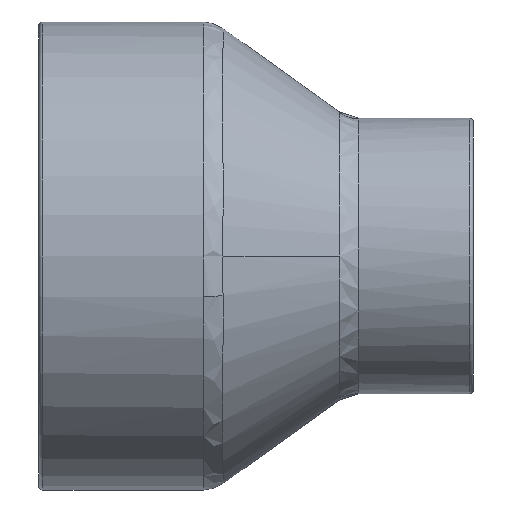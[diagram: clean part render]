
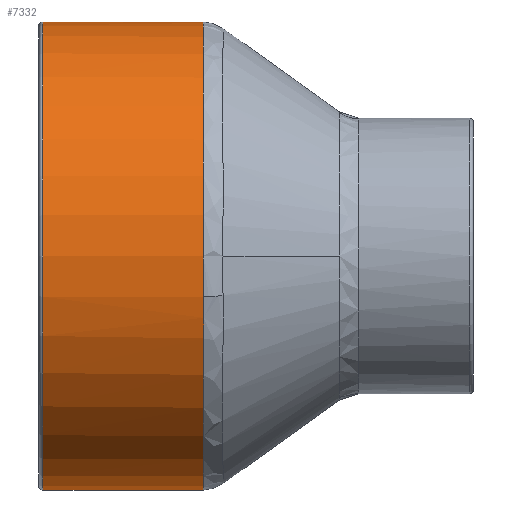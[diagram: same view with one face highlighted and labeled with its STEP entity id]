
A CAD part, front view. The second image highlights one B-rep face of the part: STEP entity #7332.
In plain terms, the highlighted cylindrical face has radius 28 mm (diameter 56 mm), a partial arc.
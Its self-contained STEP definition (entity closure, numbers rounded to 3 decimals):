
#400 = CARTESIAN_POINT ( 'NONE',  ( 19.712, 0., -28. ) ) ;
#658 = CARTESIAN_POINT ( 'NONE',  ( 0.5, 0., 28. ) ) ;
#741 = CARTESIAN_POINT ( 'NONE',  ( 19.719, -8.022, 26.845 ) ) ;
#837 = DIRECTION ( 'NONE',  ( -1., 0., 0. ) ) ;
#840 = CARTESIAN_POINT ( 'NONE',  ( 19.717, -5.072, 27.555 ) ) ;
#959 = DIRECTION ( 'NONE',  ( 0., 0., 1. ) ) ;
#1072 = EDGE_CURVE ( 'NONE', #20285, #4576, #5687, .T. ) ;
#1535 = ORIENTED_EDGE ( 'NONE', *, *, #8756, .T. ) ;
#2003 = CARTESIAN_POINT ( 'NONE',  ( 19.72, -26.5, 9.265 ) ) ;
#2144 = VERTEX_POINT ( 'NONE', #6845 ) ;
#2175 = CARTESIAN_POINT ( 'NONE',  ( 21., 0., -28. ) ) ;
#2610 = CARTESIAN_POINT ( 'NONE',  ( 19.72, -26.869, -8.043 ) ) ;
#2713 = CARTESIAN_POINT ( 'NONE',  ( 19.705, -20.935, -18.611 ) ) ;
#3022 = ORIENTED_EDGE ( 'NONE', *, *, #1072, .T. ) ;
#3386 = CARTESIAN_POINT ( 'NONE',  ( 19.713, -27.925, 2.286 ) ) ;
#3492 = CARTESIAN_POINT ( 'NONE',  ( 19.71, -23.537, 15.174 ) ) ;
#3693 = CARTESIAN_POINT ( 'NONE',  ( 19.704, -20.778, 18.796 ) ) ;
#4022 = DIRECTION ( 'NONE',  ( -1., 0., 0. ) ) ;
#4199 = CARTESIAN_POINT ( 'NONE',  ( 19.704, -20.387, -19.21 ) ) ;
#4307 = CARTESIAN_POINT ( 'NONE',  ( 19.706, -17.423, 21.925 ) ) ;
#4512 = CARTESIAN_POINT ( 'NONE',  ( 19.705, -18.315, -21.184 ) ) ;
#4576 = VERTEX_POINT ( 'NONE', #658 ) ;
#4742 = CARTESIAN_POINT ( 'NONE',  ( 19.712, 0., 28. ) ) ;
#5073 = CARTESIAN_POINT ( 'NONE',  ( 19.718, -27.507, 5.331 ) ) ;
#5274 = CARTESIAN_POINT ( 'NONE',  ( 19.715, -27.823, 3.304 ) ) ;
#5443 = DIRECTION ( 'NONE',  ( -1., 0., 0. ) ) ;
#5687 = LINE ( 'NONE', #9120, #16042 ) ;
#5691 = CARTESIAN_POINT ( 'NONE',  ( 19.704, -18.977, 20.595 ) ) ;
#5747 = LINE ( 'NONE', #2175, #6002 ) ;
#5775 = CARTESIAN_POINT ( 'NONE',  ( 19.709, -15.415, -23.431 ) ) ;
#5786 = CARTESIAN_POINT ( 'NONE',  ( 19.716, -4.072, 27.721 ) ) ;
#6002 = VECTOR ( 'NONE', #5443, 1000. ) ;
#6182 = CARTESIAN_POINT ( 'NONE',  ( 19.704, -19.228, -20.358 ) ) ;
#6632 = B_SPLINE_CURVE_WITH_KNOTS ( 'NONE', 3,
 ( #17765, #16487, #11358, #9775, #16177, #3386, #5274, #5073, #11568, #2003, #6641, #17866, #8407, #18070, #3492, #9876, #11672, #3693, #10081, #5691, #10602, #12095, #4307, #19841, #8717, #8820, #7251, #11997, #17106, #741, #15227, #840, #5786, #13861, #7349, #8611 ),
 .UNSPECIFIED., .F., .F.,
 ( 4, 2, 2, 2, 2, 2, 2, 2, 2, 2, 2, 2, 2, 2, 2, 2, 2, 4 ),
 ( 0.172, 0.175, 0.178, 0.181, 0.184, 0.19, 0.192, 0.194, 0.197, 0.2, 0.201, 0.203, 0.209, 0.21, 0.212, 0.215, 0.218, 0.221 ),
 .UNSPECIFIED. ) ;
#6641 = CARTESIAN_POINT ( 'NONE',  ( 19.717, -25.765, 11.152 ) ) ;
#6845 = CARTESIAN_POINT ( 'NONE',  ( 0.5, 0., -28. ) ) ;
#7251 = CARTESIAN_POINT ( 'NONE',  ( 19.717, -10.895, 25.799 ) ) ;
#7332 = ADVANCED_FACE ( 'NONE', ( #16708 ), #13878, .T. ) ;
#7338 = CARTESIAN_POINT ( 'NONE',  ( 19.715, -12.588, -25.024 ) ) ;
#7349 = CARTESIAN_POINT ( 'NONE',  ( 19.712, -1.018, 28. ) ) ;
#7540 = CARTESIAN_POINT ( 'NONE',  ( 19.707, -22.498, -16.747 ) ) ;
#7638 = CARTESIAN_POINT ( 'NONE',  ( 19.719, -6.473, -27.29 ) ) ;
#7956 = CARTESIAN_POINT ( 'NONE',  ( 0.5, 0., 0. ) ) ;
#8407 = CARTESIAN_POINT ( 'NONE',  ( 19.712, -24.33, 13.867 ) ) ;
#8611 = CARTESIAN_POINT ( 'NONE',  ( 19.712, 0., 28. ) ) ;
#8717 = CARTESIAN_POINT ( 'NONE',  ( 19.713, -13.677, 24.517 ) ) ;
#8756 = EDGE_CURVE ( 'NONE', #4576, #2144, #16727, .T. ) ;
#8820 = CARTESIAN_POINT ( 'NONE',  ( 19.717, -11.366, 25.594 ) ) ;
#8900 = VERTEX_POINT ( 'NONE', #13448 ) ;
#9015 = CARTESIAN_POINT ( 'NONE',  ( 19.712, 0., -28. ) ) ;
#9111 = CARTESIAN_POINT ( 'NONE',  ( 19.712, -0.817, -28. ) ) ;
#9120 = CARTESIAN_POINT ( 'NONE',  ( 21., 0., 28. ) ) ;
#9213 = CARTESIAN_POINT ( 'NONE',  ( 19.719, -27.291, -6.473 ) ) ;
#9775 = CARTESIAN_POINT ( 'NONE',  ( 19.712, -28.008, -0.786 ) ) ;
#9876 = CARTESIAN_POINT ( 'NONE',  ( 19.707, -22.689, 16.438 ) ) ;
#10081 = CARTESIAN_POINT ( 'NONE',  ( 19.704, -20.084, 19.536 ) ) ;
#10602 = CARTESIAN_POINT ( 'NONE',  ( 19.705, -18.595, 20.94 ) ) ;
#10691 = CARTESIAN_POINT ( 'NONE',  ( 19.704, -19.523, -20.075 ) ) ;
#10782 = ORIENTED_EDGE ( 'NONE', *, *, #11676, .T. ) ;
#10899 = CARTESIAN_POINT ( 'NONE',  ( 19.718, -26.038, -10.329 ) ) ;
#10939 = EDGE_CURVE ( 'NONE', #14250, #2144, #5747, .T. ) ;
#11358 = CARTESIAN_POINT ( 'NONE',  ( 19.714, -27.876, -2.827 ) ) ;
#11568 = CARTESIAN_POINT ( 'NONE',  ( 19.719, -27.294, 6.329 ) ) ;
#11672 = CARTESIAN_POINT ( 'NONE',  ( 19.706, -22.081, 17.247 ) ) ;
#11676 = EDGE_CURVE ( 'NONE', #14250, #8900, #18889, .T. ) ;
#11997 = CARTESIAN_POINT ( 'NONE',  ( 19.718, -9.945, 26.179 ) ) ;
#12095 = CARTESIAN_POINT ( 'NONE',  ( 19.705, -17.819, 21.604 ) ) ;
#12186 = CARTESIAN_POINT ( 'NONE',  ( 19.705, -18.624, -20.912 ) ) ;
#12491 = CARTESIAN_POINT ( 'NONE',  ( 19.718, -10.347, -26.031 ) ) ;
#13448 = CARTESIAN_POINT ( 'NONE',  ( 19.717, -27.576, -4.853 ) ) ;
#13754 = CARTESIAN_POINT ( 'NONE',  ( 19.715, -3.27, -27.82 ) ) ;
#13848 = CARTESIAN_POINT ( 'NONE',  ( 19.713, -1.641, -27.964 ) ) ;
#13861 = CARTESIAN_POINT ( 'NONE',  ( 19.713, -2.047, 27.944 ) ) ;
#13878 = CYLINDRICAL_SURFACE ( 'NONE', #14037, 28. ) ;
#13954 = CARTESIAN_POINT ( 'NONE',  ( 19.709, -23.431, -15.416 ) ) ;
#14037 = AXIS2_PLACEMENT_3D ( 'NONE', #15339, #4022, #959 ) ;
#14054 = CARTESIAN_POINT ( 'NONE',  ( 19.707, -16.746, -22.5 ) ) ;
#14153 = CARTESIAN_POINT ( 'NONE',  ( 19.716, -4.076, -27.714 ) ) ;
#14231 = EDGE_LOOP ( 'NONE', ( #15780, #10782, #17167, #3022, #1535 ) ) ;
#14250 = VERTEX_POINT ( 'NONE', #400 ) ;
#14358 = DIRECTION ( 'NONE',  ( 1., 0., 0. ) ) ;
#15227 = CARTESIAN_POINT ( 'NONE',  ( 19.719, -7.047, 27.118 ) ) ;
#15339 = CARTESIAN_POINT ( 'NONE',  ( 21., 0., 0. ) ) ;
#15780 = ORIENTED_EDGE ( 'NONE', *, *, #10939, .F. ) ;
#16042 = VECTOR ( 'NONE', #837, 1000. ) ;
#16177 = CARTESIAN_POINT ( 'NONE',  ( 19.711, -28.018, 0.242 ) ) ;
#16487 = CARTESIAN_POINT ( 'NONE',  ( 19.716, -27.754, -3.842 ) ) ;
#16708 = FACE_OUTER_BOUND ( 'NONE', #14231, .T. ) ;
#16727 = CIRCLE ( 'NONE', #17055, 28. ) ;
#16988 = CARTESIAN_POINT ( 'NONE',  ( 19.715, -25.04, -12.555 ) ) ;
#17055 = AXIS2_PLACEMENT_3D ( 'NONE', #7956, #14358, #20759 ) ;
#17106 = CARTESIAN_POINT ( 'NONE',  ( 19.719, -9.466, 26.356 ) ) ;
#17167 = ORIENTED_EDGE ( 'NONE', *, *, #19954, .T. ) ;
#17765 = CARTESIAN_POINT ( 'NONE',  ( 19.717, -27.576, -4.853 ) ) ;
#17866 = CARTESIAN_POINT ( 'NONE',  ( 19.713, -24.581, 13.418 ) ) ;
#18070 = CARTESIAN_POINT ( 'NONE',  ( 19.711, -23.809, 14.744 ) ) ;
#18574 = CARTESIAN_POINT ( 'NONE',  ( 19.714, -13.308, -24.648 ) ) ;
#18880 = CARTESIAN_POINT ( 'NONE',  ( 19.717, -11.109, -25.715 ) ) ;
#18889 = B_SPLINE_CURVE_WITH_KNOTS ( 'NONE', 3,
 ( #9015, #9111, #13848, #13754, #14153, #7638, #20142, #12491, #18880, #7338, #18574, #5775, #14054, #4512, #12186, #6182, #10691, #4199, #2713, #7540, #13954, #20237, #16988, #20437, #10899, #2610, #9213, #20335 ),
 .UNSPECIFIED., .F., .F.,
 ( 4, 2, 2, 2, 2, 2, 2, 2, 2, 2, 2, 2, 2, 4 ),
 ( 0.133, 0.135, 0.138, 0.143, 0.145, 0.147, 0.152, 0.154, 0.155, 0.157, 0.162, 0.165, 0.167, 0.172 ),
 .UNSPECIFIED. ) ;
#19841 = CARTESIAN_POINT ( 'NONE',  ( 19.709, -15.407, 23.468 ) ) ;
#19954 = EDGE_CURVE ( 'NONE', #8900, #20285, #6632, .T. ) ;
#20142 = CARTESIAN_POINT ( 'NONE',  ( 19.72, -8.041, -26.87 ) ) ;
#20237 = CARTESIAN_POINT ( 'NONE',  ( 19.714, -24.662, -13.284 ) ) ;
#20285 = VERTEX_POINT ( 'NONE', #4742 ) ;
#20335 = CARTESIAN_POINT ( 'NONE',  ( 19.717, -27.576, -4.853 ) ) ;
#20437 = CARTESIAN_POINT ( 'NONE',  ( 19.717, -25.728, -11.079 ) ) ;
#20759 = DIRECTION ( 'NONE',  ( 0., 0., -1. ) ) ;
